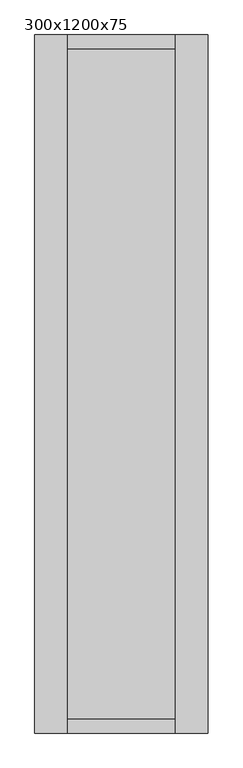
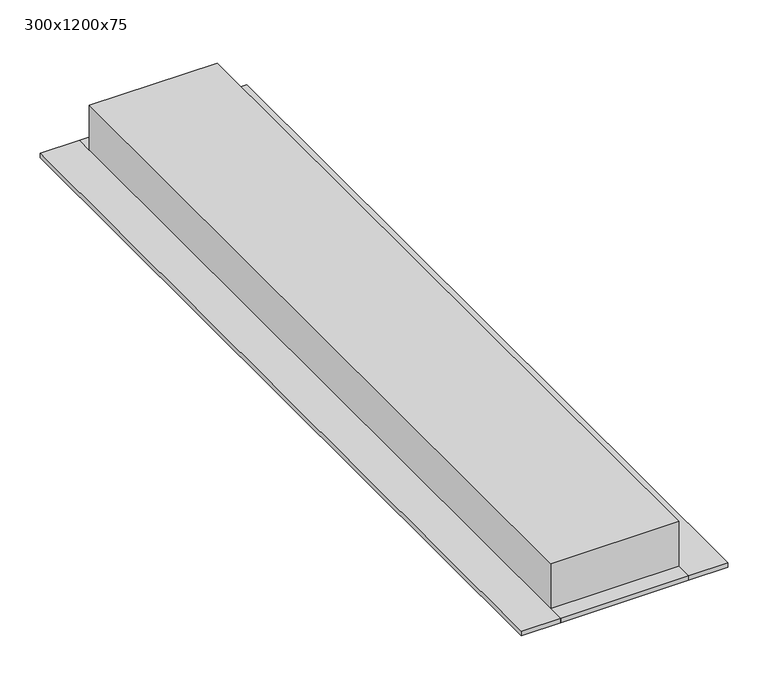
"""IFC4 building model written with IfcOpenShell, lengths in millimetres: light fixture geometry, OWA Lifetime LED : 300x1200x75."""

from ifc_helpers import new_model, si_unit, frame, origin, place, context, project, spatial, polyline, outline, extrude, faceted_brep, source, transform, mapped, element, save


def light_fixture_300x1200x75_4d3c8f62(model_context):
    return source(origin(), model_context, "Body", "SolidModel", [
        faceted_brep([(91.8, 574.0, 4075.0), (-91.8, 574.0, 4075.0), (-91.8, -574.0, 4075.0), (91.8, -574.0, 4075.0), (69.3, 552.8, 4014.0), (69.3, -552.8, 4014.0), (-69.3, -552.8, 4014.0), (-69.3, 552.8, 4014.0), (91.8, 574.0, 4000.0), (-91.8, 574.0, 4000.0), (-91.8, -574.0, 4000.0), (91.8, -574.0, 4000.0), (69.3, 552.8, 4000.0), (-69.3, 552.8, 4000.0), (-69.3, -552.8, 4000.0), (69.3, -552.8, 4000.0)], [[[0, 1, 2, 3]], [[4, 5, 6, 7]], [[1, 0, 8, 9]], [[2, 1, 9, 10]], [[3, 2, 10, 11]], [[8, 0, 3, 11]], [[8, 11, 10, 9], [12, 13, 14, 15]], [[12, 15, 5, 4]], [[15, 14, 6, 5]], [[14, 13, 7, 6]], [[13, 12, 4, 7]]]),
        extrude(outline(polyline([(69.3, 552.8), (69.3, -552.8), (-69.3, -552.8), (-69.3, 552.8), (69.3, 552.8)])), frame((0.0, 0.0, 4000.0), z_axis=(0.0, 0.0, 1.0), x_axis=(1.0, 0.0, 0.0)), (0.0, 0.0, 1.0), 7.0),
        extrude(outline(polyline([(91.8, 598.5), (91.8, 574.0), (-91.8, 574.0), (-91.8, 598.5), (91.8, 598.5)])), frame((0.0, 0.0, 4000.0), z_axis=(0.0, 0.0, 1.0), x_axis=(1.0, 0.0, 0.0)), (0.0, 0.0, 1.0), 7.0),
        extrude(outline(polyline([(91.8, -598.5), (-91.8, -598.5), (-91.8, -574.0), (91.8, -574.0), (91.8, -598.5)])), frame((0.0, 0.0, 4000.0), z_axis=(0.0, 0.0, 1.0), x_axis=(1.0, 0.0, 0.0)), (0.0, 0.0, 1.0), 7.0),
        extrude(outline(polyline([(-91.8, 598.5), (-91.8, -598.5), (-148.5, -598.5), (-148.5, 598.5), (-91.8, 598.5)])), frame((0.0, 0.0, 4000.0), z_axis=(0.0, 0.0, 1.0), x_axis=(1.0, 0.0, 0.0)), (0.0, 0.0, 1.0), 7.0),
        extrude(outline(polyline([(91.8, 598.5), (148.5, 598.5), (148.5, -598.5), (91.8, -598.5), (91.8, 598.5)])), frame((0.0, 0.0, 4000.0), z_axis=(0.0, 0.0, 1.0), x_axis=(1.0, 0.0, 0.0)), (0.0, 0.0, 1.0), 7.0),
    ])


if __name__ == "__main__":
    model = new_model("IFC4")
    model_context = context("Model", 3, world=origin())
    ifc_project = project(units=[si_unit("LENGTHUNIT", "METRE", prefix="MILLI")], contexts=[model_context])
    site = spatial("IfcSite", under=ifc_project)
    building = spatial("IfcBuilding", under=site)
    placement = place(None, origin())
    light_fixture_300x1200x75_shape = light_fixture_300x1200x75_4d3c8f62(model_context)
    element("IfcLightFixture", 1, ObjectType="OWA Lifetime LED : 300x1200x75", at=placement, inside=building, context=model_context, shape_type="MappedRepresentation", body=[
        mapped(light_fixture_300x1200x75_shape, transform((0.0, 0.0, 0.0), x_axis=(1.0, 0.0, 0.0), y_axis=(0.0, 1.0, 0.0), z_axis=(0.0, 0.0, 1.0))),
    ])
    save(model, "model.ifc")
